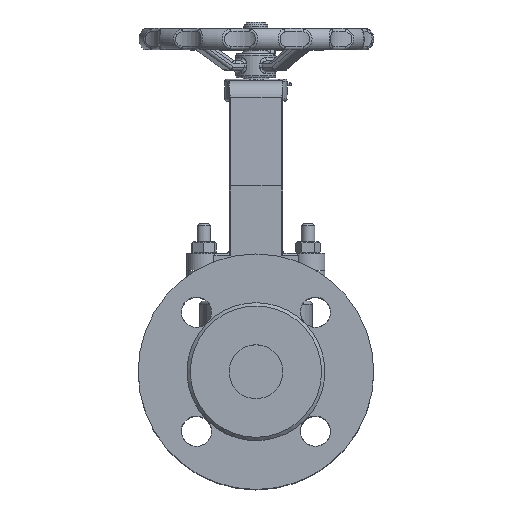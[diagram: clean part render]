
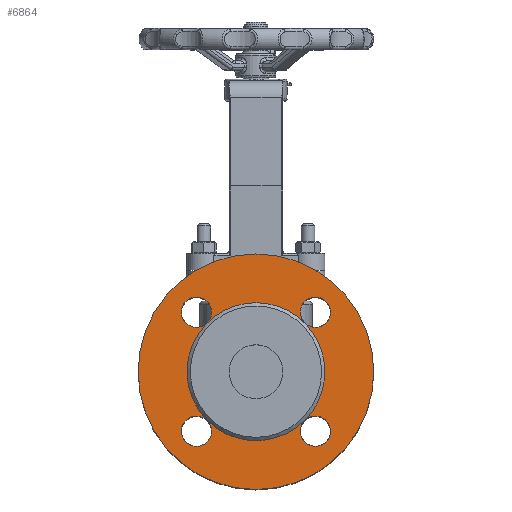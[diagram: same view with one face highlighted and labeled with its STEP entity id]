
A CAD part, top view. The second image highlights one B-rep face of the part: STEP entity #6864.
In plain terms, the highlighted planar face has unit normal (0, 0, 1).
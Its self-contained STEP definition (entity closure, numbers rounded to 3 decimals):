
#6864=ADVANCED_FACE('',(#15150,#15152,#15154,#15156,#15158,#15160),#15162,.F.);
#15150=FACE_BOUND('',#15151,.T.);
#15151=EDGE_LOOP('',(#22250));
#15152=FACE_BOUND('',#15153,.T.);
#15153=EDGE_LOOP('',(#22251));
#15154=FACE_BOUND('',#15155,.T.);
#15155=EDGE_LOOP('',(#22252));
#15156=FACE_BOUND('',#15157,.T.);
#15157=EDGE_LOOP('',(#22253));
#15158=FACE_BOUND('',#15159,.T.);
#15159=EDGE_LOOP('',(#22254));
#15160=FACE_BOUND('',#15161,.T.);
#15161=EDGE_LOOP('',(#22255));
#15162=PLANE('',#15163);
#15163=AXIS2_PLACEMENT_3D('',#15164,#15165,#15166);
#15164=CARTESIAN_POINT('',(0.,0.,88.));
#15165=DIRECTION('',(0.,0.,-1.));
#15166=DIRECTION('',(0.,1.,0.));
#22250=ORIENTED_EDGE('',*,*,#25221,.T.);
#22251=ORIENTED_EDGE('',*,*,#25438,.F.);
#22252=ORIENTED_EDGE('',*,*,#25225,.T.);
#22253=ORIENTED_EDGE('',*,*,#25224,.T.);
#22254=ORIENTED_EDGE('',*,*,#25223,.T.);
#22255=ORIENTED_EDGE('',*,*,#25222,.T.);
#25221=EDGE_CURVE('',#28957,#28957,#28958,.T.);
#25222=EDGE_CURVE('',#28959,#28959,#28960,.T.);
#25223=EDGE_CURVE('',#28961,#28961,#28962,.T.);
#25224=EDGE_CURVE('',#28963,#28963,#28964,.T.);
#25225=EDGE_CURVE('',#28965,#28965,#28966,.T.);
#25438=EDGE_CURVE('',#29310,#29310,#29311,.T.);
#28957=VERTEX_POINT('',#57855);
#28958=CIRCLE('',#57856,70.);
#28959=VERTEX_POINT('',#57860);
#28960=CIRCLE('',#57861,9.);
#28961=VERTEX_POINT('',#57865);
#28962=CIRCLE('',#57866,9.);
#28963=VERTEX_POINT('',#57870);
#28964=CIRCLE('',#57871,9.);
#28965=VERTEX_POINT('',#57875);
#28966=CIRCLE('',#57876,9.);
#29310=VERTEX_POINT('',#59323);
#29311=CIRCLE('',#59324,41.);
#57855=CARTESIAN_POINT('',(0.,70.,88.));
#57856=AXIS2_PLACEMENT_3D('',#57857,#57858,#57859);
#57857=CARTESIAN_POINT('',(0.,0.,88.));
#57858=DIRECTION('',(0.,0.,1.));
#57859=DIRECTION('',(0.,1.,0.));
#57860=CARTESIAN_POINT('',(35.355,-26.355,88.));
#57861=AXIS2_PLACEMENT_3D('',#57862,#57863,#57864);
#57862=CARTESIAN_POINT('',(35.355,-35.355,88.));
#57863=DIRECTION('',(0.,0.,-1.));
#57864=DIRECTION('',(0.,1.,0.));
#57865=CARTESIAN_POINT('',(-35.355,26.355,88.));
#57866=AXIS2_PLACEMENT_3D('',#57867,#57868,#57869);
#57867=CARTESIAN_POINT('',(-35.355,35.355,88.));
#57868=DIRECTION('',(0.,0.,-1.));
#57869=DIRECTION('',(0.,-1.,0.));
#57870=CARTESIAN_POINT('',(26.355,35.355,88.));
#57871=AXIS2_PLACEMENT_3D('',#57872,#57873,#57874);
#57872=CARTESIAN_POINT('',(35.355,35.355,88.));
#57873=DIRECTION('',(0.,0.,-1.));
#57874=DIRECTION('',(-1.,0.,0.));
#57875=CARTESIAN_POINT('',(-26.355,-35.355,88.));
#57876=AXIS2_PLACEMENT_3D('',#57877,#57878,#57879);
#57877=CARTESIAN_POINT('',(-35.355,-35.355,88.));
#57878=DIRECTION('',(0.,0.,-1.));
#57879=DIRECTION('',(1.,0.,0.));
#59323=CARTESIAN_POINT('',(0.,41.,88.));
#59324=AXIS2_PLACEMENT_3D('',#59325,#59326,#59327);
#59325=CARTESIAN_POINT('',(0.,0.,88.));
#59326=DIRECTION('',(0.,0.,1.));
#59327=DIRECTION('',(0.,1.,0.));
